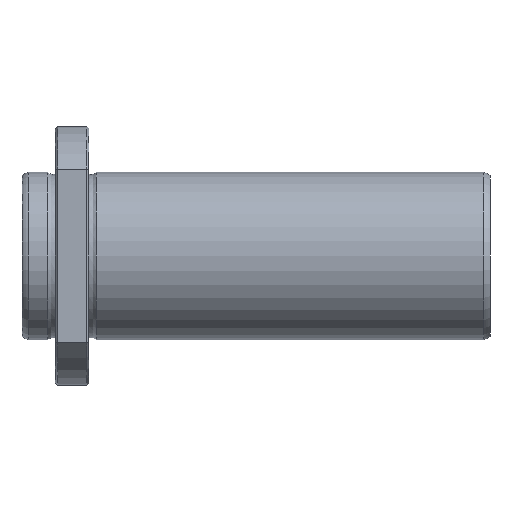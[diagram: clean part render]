
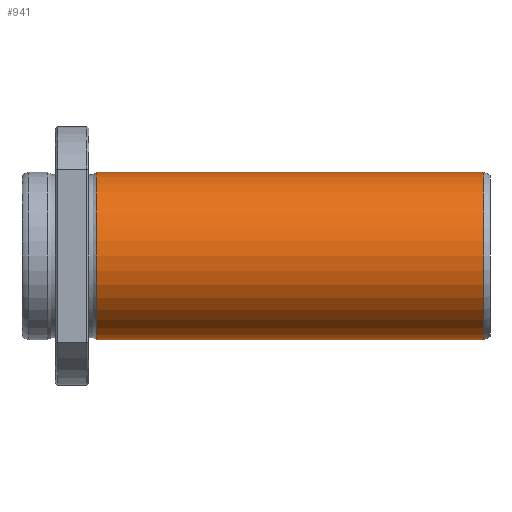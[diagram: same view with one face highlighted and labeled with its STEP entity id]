
A CAD part, front view. The second image highlights one B-rep face of the part: STEP entity #941.
In plain terms, the highlighted cylindrical face has radius 20 mm (diameter 40 mm), a full revolution.
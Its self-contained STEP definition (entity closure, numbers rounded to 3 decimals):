
#907=CARTESIAN_POINT('',(110.502,0.0,20.));
#908=VERTEX_POINT('',#907);
#909=CARTESIAN_POINT('',(110.502,0.0,0.0));
#910=DIRECTION('',(-1.0,0.0,0.0));
#911=DIRECTION('',(0.0,0.0,1.0));
#912=AXIS2_PLACEMENT_3D('',#909,#910,#911);
#913=CIRCLE('',#912,20.);
#914=EDGE_CURVE('',#908,#908,#913,.T.);
#922=CARTESIAN_POINT('',(64.162,0.0,0.0));
#923=DIRECTION('',(-1.0,0.0,0.0));
#924=DIRECTION('',(0.0,0.0,1.0));
#925=AXIS2_PLACEMENT_3D('',#922,#923,#924);
#926=CYLINDRICAL_SURFACE('',#925,20.);
#927=CARTESIAN_POINT('',(17.823,0.0,20.));
#928=VERTEX_POINT('',#927);
#929=CARTESIAN_POINT('',(17.823,0.0,0.0));
#930=DIRECTION('',(-1.0,0.0,0.0));
#931=DIRECTION('',(0.0,0.0,1.0));
#932=AXIS2_PLACEMENT_3D('',#929,#930,#931);
#933=CIRCLE('',#932,20.);
#934=EDGE_CURVE('',#928,#928,#933,.T.);
#935=ORIENTED_EDGE('',*,*,#934,.F.);
#936=EDGE_LOOP('',(#935));
#937=FACE_OUTER_BOUND('',#936,.T.);
#938=ORIENTED_EDGE('',*,*,#914,.T.);
#939=EDGE_LOOP('',(#938));
#940=FACE_BOUND('',#939,.T.);
#941=ADVANCED_FACE('',(#937,#940),#926,.T.);
